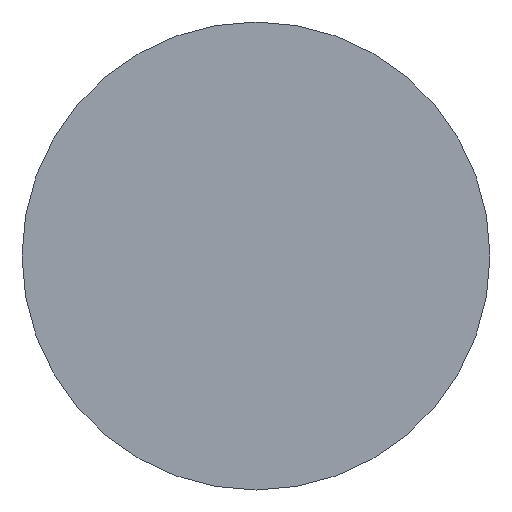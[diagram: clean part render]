
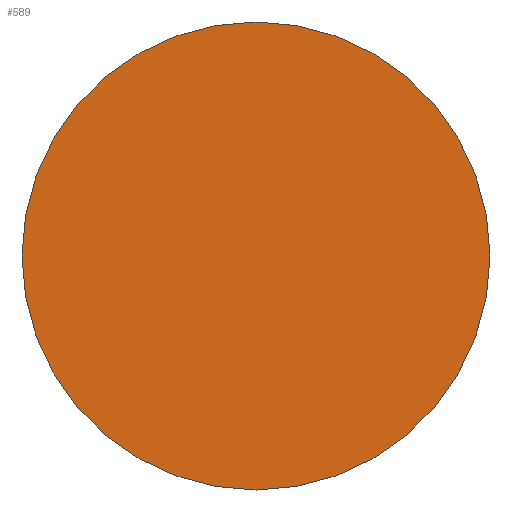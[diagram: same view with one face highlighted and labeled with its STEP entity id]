
A CAD part, left-side view. The second image highlights one B-rep face of the part: STEP entity #589.
In plain terms, the highlighted planar face has unit normal (-1, 0, 0).
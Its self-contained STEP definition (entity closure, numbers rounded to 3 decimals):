
#542=CARTESIAN_POINT('',(-528.136,-446.609,0.));
#543=VERTEX_POINT('',#542);
#550=CARTESIAN_POINT('',(-528.136,-529.609,0.));
#551=VERTEX_POINT('',#550);
#552=CARTESIAN_POINT('',(-528.136,-488.109,0.));
#553=DIRECTION('',(-1.0,0.0,0.));
#554=DIRECTION('',(0.0,1.0,0.0));
#555=AXIS2_PLACEMENT_3D('',#552,#553,#554);
#556=CIRCLE('',#555,41.5);
#557=EDGE_CURVE('',#551,#543,#556,.T.);
#559=CARTESIAN_POINT('',(-528.136,-488.109,0.));
#560=DIRECTION('',(-1.0,0.0,0.));
#561=DIRECTION('',(0.0,1.0,0.0));
#562=AXIS2_PLACEMENT_3D('',#559,#560,#561);
#563=CIRCLE('',#562,41.5);
#564=EDGE_CURVE('',#543,#551,#563,.T.);
#580=CARTESIAN_POINT('',(-528.136,-537.91,49.8));
#581=DIRECTION('',(-1.0,0.0,0.0));
#582=DIRECTION('',(0.0,1.0,0.0));
#583=AXIS2_PLACEMENT_3D('',#580,#581,#582);
#584=PLANE('',#583);
#585=ORIENTED_EDGE('',*,*,#564,.T.);
#586=ORIENTED_EDGE('',*,*,#557,.T.);
#587=EDGE_LOOP('',(#585,#586));
#588=FACE_OUTER_BOUND('',#587,.T.);
#589=ADVANCED_FACE('',(#588),#584,.T.);
